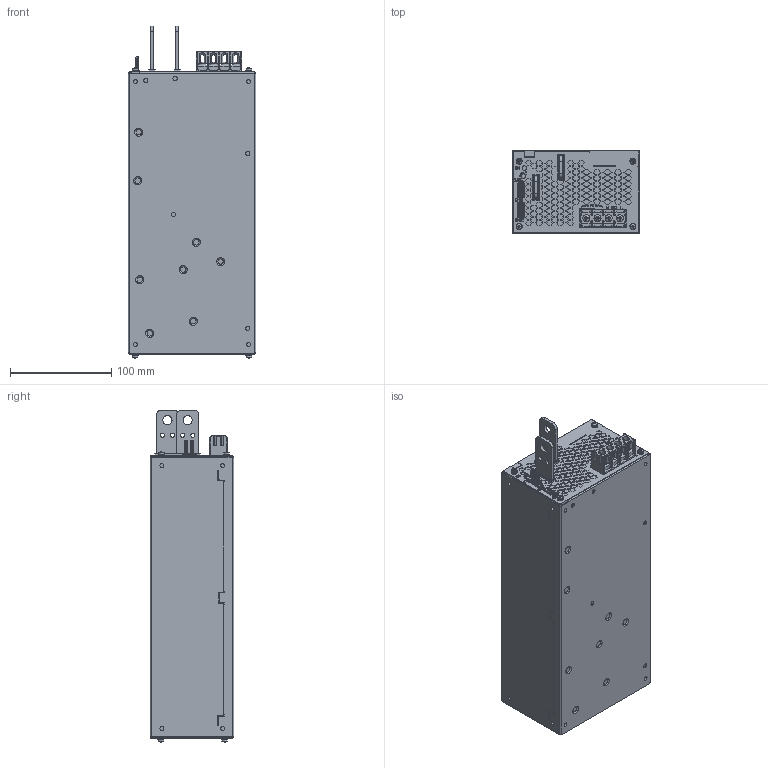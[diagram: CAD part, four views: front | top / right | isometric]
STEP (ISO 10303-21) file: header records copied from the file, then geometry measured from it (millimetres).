
FILE_DESCRIPTION (( 'STEP AP214' ), '1' );
FILE_NAME ('HWS1500_OUTLINE_A.STEP', '2006-08-09T07:45:38', ( ' ' ), ( ' ' ), 'SwSTEP 2.0', 'SolidWorks 2006104', '' );
FILE_SCHEMA (( 'AUTOMOTIVE_DESIGN' ));
Length unit declared in the file: millimetre
Products named in the file (1): HWS1500_OUTLINE_A
Bounding box: 126.5 x 82.5 x 328.35 mm (x, y, z)
Volume: 2924968.2 mm3; surface area: 158616 mm2
Topology: 2 solids, 6 shells, 4743 faces, 12466 edges, 8192 vertices
Faces by surface type: plane 4083, cylinder 394, cone 161, bspline 105
Entity records: 198471 total; most frequent: CARTESIAN_POINT 28815, ORIENTED_EDGE 24884, DIRECTION 22738, EDGE_CURVE 12442, VECTOR 10756, LINE 10756, VERTEX_POINT 8192, AXIS2_PLACEMENT_3D 5991
